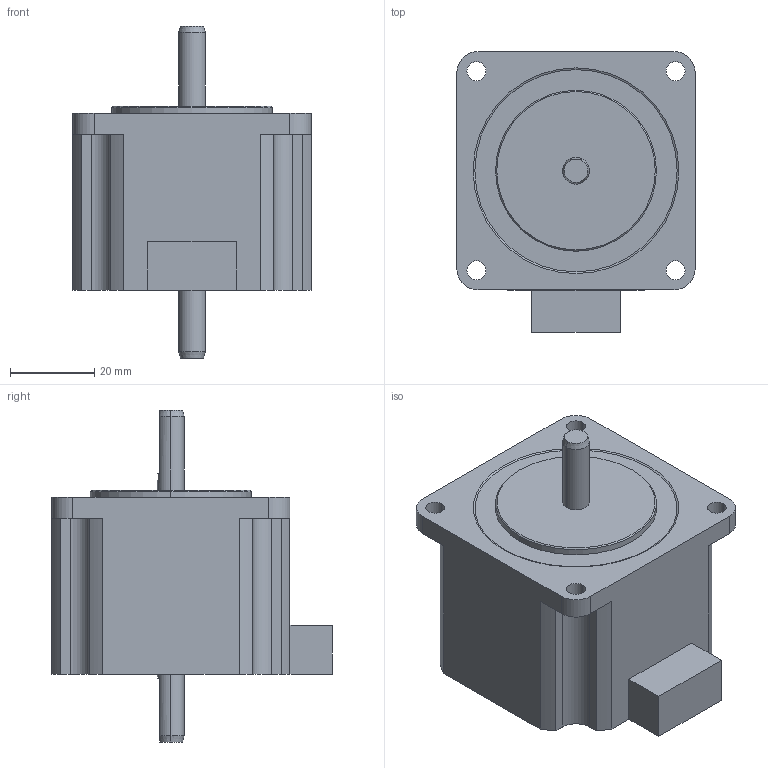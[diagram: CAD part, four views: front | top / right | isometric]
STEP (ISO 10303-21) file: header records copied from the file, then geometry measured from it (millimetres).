
FILE_DESCRIPTION (( 'STEP AP203' ), '1' );
FILE_NAME ('PMSA-U56D1D_3D.STEP', '2016-11-15T04:47:55', ( 'SKJ00869' ), ( '' ), 'SwSTEP 2.0', 'SolidWorks 2014', '' );
FILE_SCHEMA (( 'CONFIG_CONTROL_DESIGN' ));
Length unit declared in the file: millimetre
Products named in the file (1): PMSA-U56D1D_3D
Bounding box: 56.4 x 66.4 x 78.6 mm (x, y, z)
Volume: 126456.6 mm3; surface area: 16718.1 mm2
Topology: 1 solids, 1 shells, 70 faces, 186 edges, 122 vertices
Faces by surface type: cylinder 30, plane 30, cone 10
Entity records: 2303 total; most frequent: DIRECTION 400, CARTESIAN_POINT 399, ORIENTED_EDGE 372, EDGE_CURVE 186, AXIS2_PLACEMENT_3D 147, VERTEX_POINT 122, VECTOR 106, LINE 106
